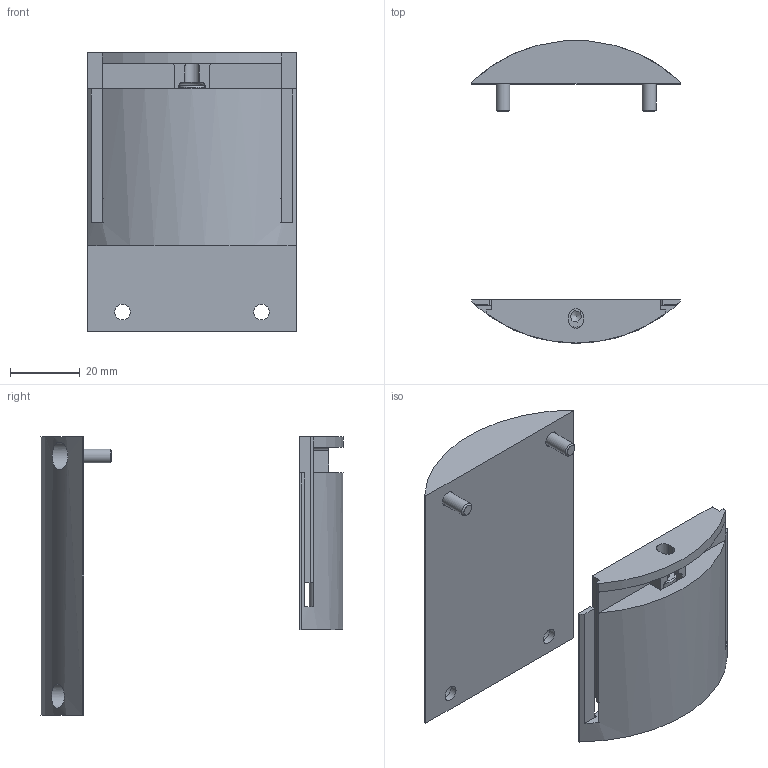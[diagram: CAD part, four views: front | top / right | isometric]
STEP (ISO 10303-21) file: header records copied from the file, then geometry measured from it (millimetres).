
FILE_DESCRIPTION(/* description */ ('Tělo krytu'),/* implementation_level */ '2;1');
FILE_NAME(/* name */ 'SUB-CH87-CMK-M06.stp',/* time_stamp */ '2026-05-07T12:00:35+02:00',/* author */ ('roman'),/* organization */ (''),/* preprocessor_version */ 'ST-DEVELOPER v20',/* originating_system */ 'Autodesk Inventor 2024',/* authorisation */ '');
FILE_SCHEMA (('AUTOMOTIVE_DESIGN { 1 0 10303 214 3 1 1 }'));
Length unit declared in the file: millimetre
Products named in the file (6): SUB-CH87-CMK-M06; CH87-CMK-FXP-M06; CH87-CMK-APT; CH87-CMK-APH; DIN 912 - M4 x 40; ISO 7380-1 - M4 x 10
Assembly tree (6 placements, depth 2):
  SUB-CH87-CMK-M06
    CH87-CMK-FXP-M06
    CH87-CMK-APT
    CH87-CMK-APH
    DIN 912 - M4 x 40
    ISO 7380-1 - M4 x 10  x2
Bounding box: 60.03 x 86.84 x 80 mm (x, y, z)
Volume: 65931.2 mm3; surface area: 26322.1 mm2
Topology: 6 solids, 6 shells, 134 faces, 341 edges, 224 vertices
Faces by surface type: plane 84, cylinder 36, torus 6, cone 6, bspline 2
Full cylindrical faces by diameter (mm): 3.242 x1, 4 x3, 4.5 x4, 7 x3, 7.6 x2, 8 x2
Entity records: 4008 total; most frequent: CARTESIAN_POINT 834, DIRECTION 631, ORIENTED_EDGE 606, EDGE_CURVE 303, AXIS2_PLACEMENT_3D 218, VERTEX_POINT 200, LINE 195, VECTOR 195
